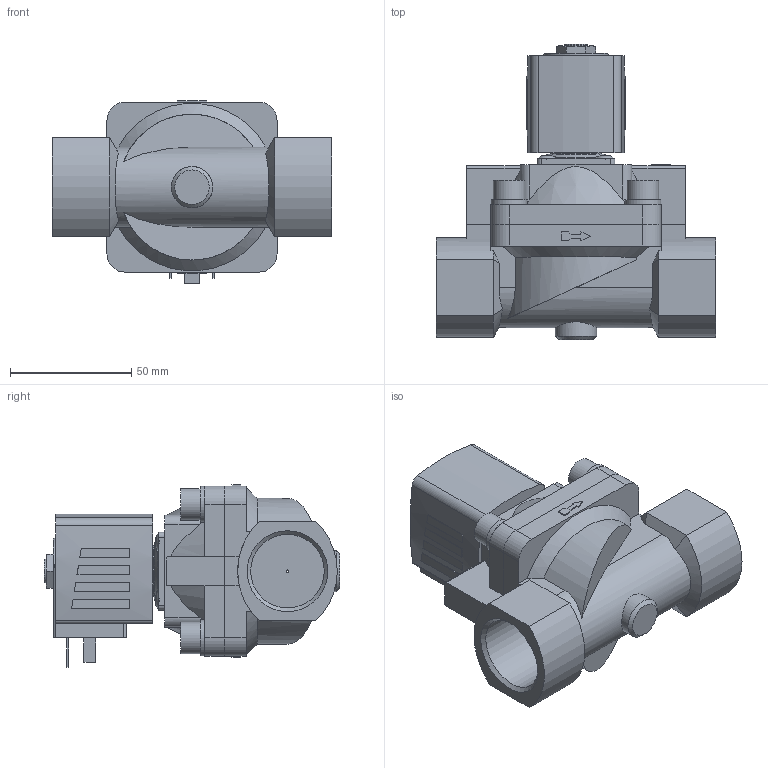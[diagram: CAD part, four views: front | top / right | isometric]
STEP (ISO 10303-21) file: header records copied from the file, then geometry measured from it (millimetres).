
FILE_DESCRIPTION(/* description */ ('STEP AP214'),/* implementation_level */ '2;1');
FILE_NAME(/* name */ '5404-342018-Servo-assisted_2_2_way_piston_valve',/* time_stamp */ '2024-02-27T11:11:47+01:00',/* author */ ('License CC BY-ND 4.0'),/* organization */ ('CADENAS'),/* preprocessor_version */ 'ST-DEVELOPER v19.3',/* originating_system */ 'PARTsolutions',/* authorisation */ ' ');
FILE_SCHEMA (('AUTOMOTIVE_DESIGN {1 0 10303 214 3 1 1}'));
Length unit declared in the file: millimetre
Products named in the file (4): 5404-342018-Servo-assisted 2/2 way piston valve; 5282g-8625MS000-2/2-Wege-Magnetventil_Gehaeuse; 5282d-25MSAU3N-2/2-Wege-Magnetventil_Deckel; AC10ex-6NA38-Plan-Coil
Assembly tree (3 placements, depth 2):
  5404-342018-Servo-assisted 2/2 way piston valve
    5282g-8625MS000-2/2-Wege-Magnetventil_Gehaeuse
    5282d-25MSAU3N-2/2-Wege-Magnetventil_Deckel
    AC10ex-6NA38-Plan-Coil
Bounding box: 115 x 121.6 x 75 mm (x, y, z)
Volume: 341392.9 mm3; surface area: 60751 mm2
Topology: 3 solids, 3 shells, 291 faces, 716 edges, 471 vertices
Faces by surface type: plane 189, cylinder 76, cone 21, torus 5
Full cylindrical faces by diameter (mm): 1 x1, 2.013 x1, 4 x4, 7.5 x4, 7.6 x4, 9.74 x1, 13 x4, 14.8 x4, 17 x1, 21 x1, 30.291 x2
Entity records: 9202 total; most frequent: CARTESIAN_POINT 1683, DIRECTION 1400, ORIENTED_EDGE 1338, EDGE_CURVE 669, AXIS2_PLACEMENT_3D 489, VERTEX_POINT 461, LINE 422, VECTOR 422
